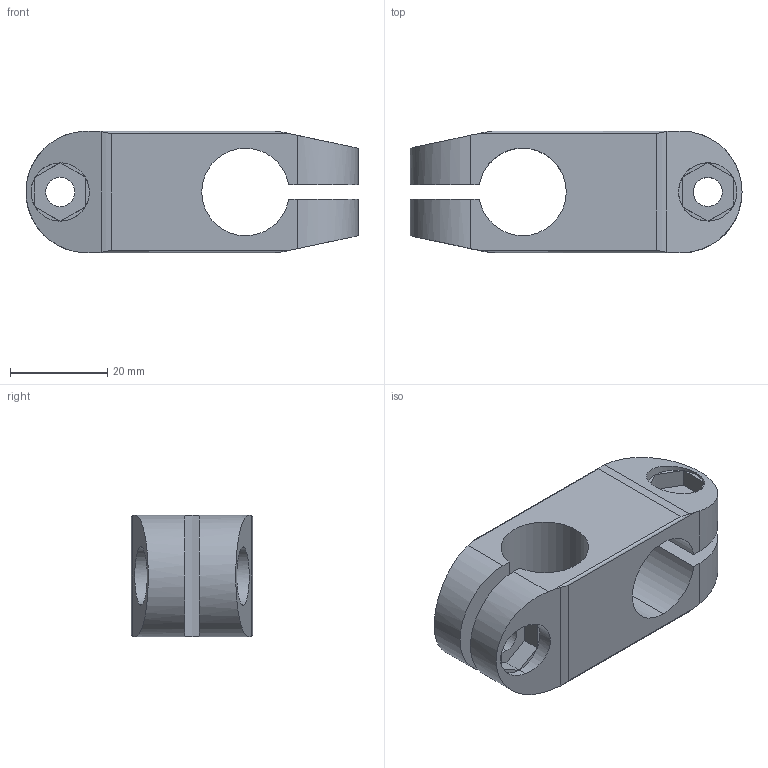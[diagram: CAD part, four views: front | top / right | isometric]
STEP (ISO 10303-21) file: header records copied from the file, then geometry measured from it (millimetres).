
FILE_DESCRIPTION (( 'STEP AP214' ), '1' );
FILE_NAME ('FGRB 18x18.step', '2017-04-05T07:37:37', ( '' ), ( '' ), 'SwSTEP 2.0', 'SolidWorks 2015', '' );
FILE_SCHEMA (( 'AUTOMOTIVE_DESIGN' ));
Length unit declared in the file: millimetre
Products named in the file (1): FGRB 18x18
Bounding box: 68.3 x 25 x 25 mm (x, y, z)
Volume: 20137.8 mm3; surface area: 10259 mm2
Topology: 1 solids, 1 shells, 124 faces, 304 edges, 186 vertices
Faces by surface type: plane 90, cylinder 34
Entity records: 3652 total; most frequent: CARTESIAN_POINT 705, DIRECTION 610, ORIENTED_EDGE 608, EDGE_CURVE 304, AXIS2_PLACEMENT_3D 211, LINE 188, VECTOR 188, VERTEX_POINT 186
